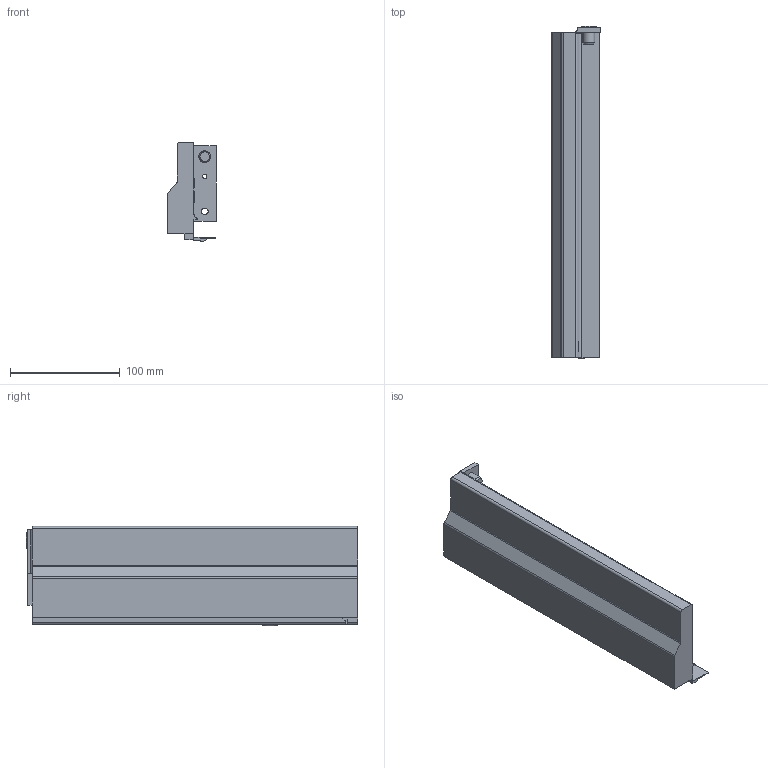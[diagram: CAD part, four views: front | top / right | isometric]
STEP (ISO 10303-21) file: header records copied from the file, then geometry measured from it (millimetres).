
FILE_DESCRIPTION (( 'STEP AP214' ), '1' );
FILE_NAME ('_IMOS_NOVA-Pro_Dekor-H90_CL_NL300_LI.step', '2010-07-06T09:00:39', ( 'grass' ), ( '' ), 'SwSTEP 2.0', 'SolidWorks 2009', '' );
FILE_SCHEMA (( 'AUTOMOTIVE_DESIGN' ));
Length unit declared in the file: millimetre
Products named in the file (1): _IMOS_NOVA-Pro_Dekor-H90_CL_NL300_LI
Bounding box: 44.3 x 302.7 x 90.49 mm (x, y, z)
Volume: 272923 mm3; surface area: 106165.4 mm2
Topology: 1 solids, 1 shells, 89 faces, 239 edges, 156 vertices
Faces by surface type: plane 57, cylinder 27, cone 4, bspline 1
Entity records: 2825 total; most frequent: CARTESIAN_POINT 506, ORIENTED_EDGE 478, DIRECTION 474, EDGE_CURVE 239, VECTOR 178, LINE 178, VERTEX_POINT 156, AXIS2_PLACEMENT_3D 148
